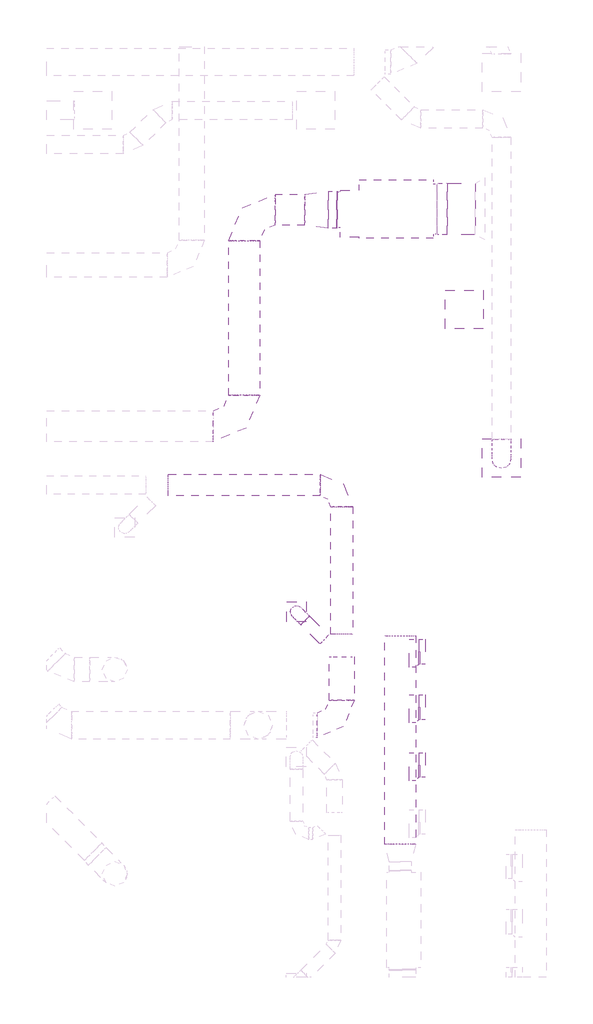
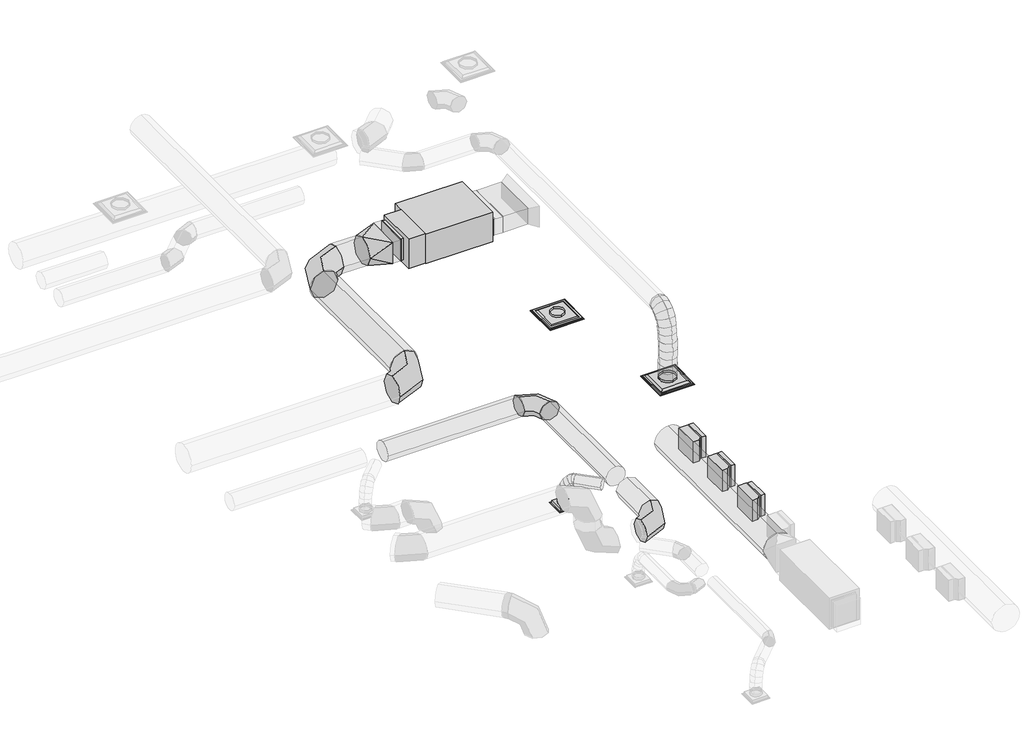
# One storey, part 30 of 33: 15 duct segments, 9 duct fittings, 6 air terminals, 1 proxy.
"""IFC4 building model written with IfcOpenShell, lengths in millimetres."""

from ifc_helpers import new_model, si_unit, point, frame, frame_2d, origin, place, context, project, spatial, polyline, circle_curve, ellipse_curve, trimmed, segment, composite_curve, outline, extrude, faceted_brep, transform, mapped, element, save
from ifc_brep_helpers import plane_surface, cylinder_surface, advanced_brep
from components import air_terminal_a17ada07, air_terminal_0721d01d, dsr_dsr_a080a00d, par_aa_10_24x24_32668ffe, fc_2_fc_2_e5f3d2ac, rectangular_tap_beveled_standard_9f1364f6, rectangular_transition_angle_45_degree_bb6b805d, rectangular_to_round_transition_angle_15_degree_eb7a6f47, round_elbow_1_d_8aca8b6e, round_elbow_1_d_a89bf638, round_elbow_1_d_1de4db61

model = new_model("IFC4")

# Units and contexts
model_context = context("Model", 3, world=origin())
ifc_project = project(units=[si_unit("LENGTHUNIT", "METRE", prefix="MILLI")], contexts=[model_context])

# Site, building, storey
site = spatial("IfcSite", under=ifc_project)
building = spatial("IfcBuilding", under=site)
storey = spatial("IfcBuildingStorey", under=building, Name="T.O. SLAB - 1ST", Elevation=-25.4)

# Air terminals
placement = place(None, origin())
air_terminal_shape = air_terminal_a17ada07(model_context)
element("IfcAirTerminal", 1, ObjectType="Titus-Round_Neck_Supply_Diffuser-PCS_Surface_Mount : PCS AA-12_24x24", at=placement, inside=storey, context=model_context, shape_type="MappedRepresentation", body=[
    mapped(air_terminal_shape, transform((36315.6541966, 21532.0330034, 2717.8), x_axis=(0.0, 1.0, 0.0), y_axis=(1.0, 0.0, 0.0), z_axis=(0.0, 0.0, -1.0))),
])
air_terminal_2_shape = air_terminal_0721d01d(model_context)
element("IfcAirTerminal", 2, ObjectType="Titus-Round_Neck_Supply_Diffuser-PCS_Surface_Mount : PCS AA-08_12x12", at=placement, inside=storey, context=model_context, shape_type="MappedRepresentation", body=[
    mapped(air_terminal_2_shape, transform((32953.3010221, 19010.4211025, 3022.6), x_axis=(1.0, 0.0, 0.0), y_axis=(0.0, -1.0, 0.0), z_axis=(0.0, 0.0, -1.0))),
])
dsr_dsr_shape = dsr_dsr_a080a00d(model_context)
element("IfcAirTerminal", 3, ObjectType="DSR : DSR", at=placement, inside=storey, context=model_context, shape_type="MappedRepresentation", body=[
    mapped(dsr_dsr_shape, transform((35061.381406, 18352.9340972, 3930.65), x_axis=(0.0, 1.0, 0.0), y_axis=(0.0, 0.0, 1.0), z_axis=(1.0, 0.0, 0.0))),
])
element("IfcAirTerminal", 4, ObjectType="DSR : DSR", at=placement, inside=storey, context=model_context, shape_type="MappedRepresentation", body=[
    mapped(dsr_dsr_shape, transform((35061.381406, 17443.908371, 3930.65), x_axis=(0.0, 1.0, 0.0), y_axis=(0.0, 0.0, 1.0), z_axis=(1.0, 0.0, 0.0))),
])
element("IfcAirTerminal", 5, ObjectType="DSR : DSR", at=placement, inside=storey, context=model_context, shape_type="MappedRepresentation", body=[
    mapped(dsr_dsr_shape, transform((35061.381406, 16495.3598945, 3930.65), x_axis=(0.0, 1.0, 0.0), y_axis=(0.0, 0.0, 1.0), z_axis=(1.0, 0.0, 0.0))),
])
par_aa_10_24x24_shape = par_aa_10_24x24_32668ffe(model_context)
element("IfcAirTerminal", 6, ObjectType="Titus-Round_Neck_Return_Diffuser-PAR_Surface_Mount : PAR AA-10_24x24", at=placement, inside=storey, context=model_context, shape_type="MappedRepresentation", body=[
    mapped(par_aa_10_24x24_shape, transform((35706.05, 23970.4366937, 2717.8), x_axis=(0.0, 1.0, 0.0), y_axis=(1.0, 0.0, 0.0), z_axis=(0.0, 0.0, -1.0))),
])

# Proxy
fc_2_fc_2_shape = fc_2_fc_2_e5f3d2ac(model_context)
element("IfcBuildingElementProxy", 7, Name="FC-2 : FC-2", ObjectType="FC-2 : FC-2", at=placement, inside=storey, context=model_context, shape_type="MappedRepresentation", body=[
    mapped(fc_2_fc_2_shape, transform((34589.6309503, 25619.3480666, 3598.849829), x_axis=(0.0, 1.0, 0.0), y_axis=(-1.0, 0.0, 0.0), z_axis=(0.0, 0.0, 1.0))),
])

# Duct fittings
rectangular_tap_beveled_standard_shape = rectangular_tap_beveled_standard_9f1364f6(model_context)
element("IfcDuctFitting", 8, ObjectType="Rectangular Tap - Beveled : Standard", at=placement, inside=storey, context=model_context, shape_type="MappedRepresentation", body=[
    mapped(rectangular_tap_beveled_standard_shape, transform((34908.981406, 18352.9340972, 3930.65), x_axis=(1.0, 0.0, 0.0), y_axis=(0.0, -1.0, 0.0), z_axis=(0.0, 0.0, -1.0))),
])
element("IfcDuctFitting", 9, ObjectType="Rectangular Tap - Beveled : Standard", at=placement, inside=storey, context=model_context, shape_type="MappedRepresentation", body=[
    mapped(rectangular_tap_beveled_standard_shape, transform((34908.981406, 17443.908371, 3930.65), x_axis=(1.0, 0.0, 0.0), y_axis=(0.0, -1.0, 0.0), z_axis=(0.0, 0.0, -1.0))),
])
element("IfcDuctFitting", 10, ObjectType="Rectangular Tap - Beveled : Standard", at=placement, inside=storey, context=model_context, shape_type="MappedRepresentation", body=[
    mapped(rectangular_tap_beveled_standard_shape, transform((34908.981406, 16495.3598945, 3930.65), x_axis=(1.0, 0.0, 0.0), y_axis=(0.0, -1.0, 0.0), z_axis=(0.0, 0.0, -1.0))),
])
rectangular_transition_angle_45_degree_shape = rectangular_transition_angle_45_degree_bb6b805d(model_context)
element("IfcDuctFitting", 11, ObjectType="Rectangular Transition - Angle : 45 Degree", at=placement, inside=storey, context=model_context, shape_type="MappedRepresentation", body=[
    mapped(rectangular_transition_angle_45_degree_shape, transform((33623.6372003, 25605.0605666, 3886.187329), x_axis=(-1.0, 0.0, 0.0), y_axis=(0.0, -1.0, 0.0), z_axis=(0.0, 0.0, 1.0))),
])
rectangular_to_round_transition_angle_15_degree_shape = rectangular_to_round_transition_angle_15_degree_eb7a6f47(model_context)
element("IfcDuctFitting", 12, ObjectType="Rectangular to Round Transition - Angle : 15 Degree", at=placement, inside=storey, context=model_context, shape_type="MappedRepresentation", body=[
    mapped(rectangular_to_round_transition_angle_15_degree_shape, transform((33471.2357178, 25605.0605666, 3886.193462), x_axis=(-0.9999999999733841, 0.0, 7.296021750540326e-06), y_axis=(0.0, -1.0, 0.0), z_axis=(7.296021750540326e-06, 0.0, 0.9999999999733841))),
])
round_elbow_1_d_shape = round_elbow_1_d_8aca8b6e(model_context)
element("IfcDuctFitting", 13, ObjectType="Round Elbow : 1 D", at=placement, inside=storey, context=model_context, shape_type="MappedRepresentation", body=[
    mapped(round_elbow_1_d_shape, transform((33696.4349991, 17149.3079464, 3530.6), x_axis=(1.0, 0.0, 0.0), y_axis=(0.0, 1.0, 0.0), z_axis=(0.0, 0.0, 1.0))),
])
round_elbow_1_d_2_shape = round_elbow_1_d_a89bf638(model_context)
element("IfcDuctFitting", 14, ObjectType="Round Elbow : 1 D", at=placement, inside=storey, context=model_context, shape_type="MappedRepresentation", body=[
    mapped(round_elbow_1_d_2_shape, transform((33696.4349991, 21087.5678553, 3530.6), x_axis=(0.0, 1.0, 0.0), y_axis=(-1.0, 0.0, 0.0), z_axis=(0.0, 0.0, 1.0))),
])
round_elbow_1_d_3_shape = round_elbow_1_d_1de4db61(model_context)
element("IfcDuctFitting", 15, ObjectType="Round Elbow : 1 D", at=placement, inside=storey, context=model_context, shape_type="MappedRepresentation", body=[
    mapped(round_elbow_1_d_3_shape, transform((32094.8584341, 25605.0605666, 3886.2021598), x_axis=(-0.9999999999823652, 0.0, 5.9388217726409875e-06), y_axis=(0.0, -1.0, 0.0), z_axis=(5.9388217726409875e-06, 0.0, 0.9999999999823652))),
])
element("IfcDuctFitting", 16, ObjectType="Round Elbow : 1 D", at=placement, inside=storey, context=model_context, shape_type="MappedRepresentation", body=[
    mapped(round_elbow_1_d_3_shape, transform((32094.8584341, 22053.924362, 3886.192755), x_axis=(1.0, 0.0, 0.0), y_axis=(0.0, 0.9999999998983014, 1.4261742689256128e-05), z_axis=(0.0, -1.4261742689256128e-05, 0.9999999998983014))),
])

# Duct segments
element("IfcDuctSegment", 17, ObjectType="Flex - Rectangular", at=placement, inside=storey, context=model_context, shape_type="SweptSolid", body=[
    extrude(outline(polyline([(3967.1749971, 35266.1549564), (3662.3749971, 35266.1549564), (3662.3749971, 35277.4369122), (3656.8187471, 35408.931307), (3656.8187471, 35426.65), (3961.6187471, 35426.65), (3961.6187471, 35415.3680442), (3967.1749971, 35283.8736494), (3967.1749971, 35266.1549564)])), frame((0.0, 25198.6605666, 0.0), z_axis=(0.0, 1.0, 0.0), x_axis=(0.0, 0.0, 1.0)), (0.0, 0.0, 1.0), 838.2),
])
element("IfcDuctSegment", 18, ObjectType="Flex - Rectangular", at=placement, inside=storey, context=model_context, shape_type="Brep", body=[
    faceted_brep([(33615.980312, 25909.8605666, 4089.3873288), (33615.980312, 25300.2605666, 4089.3873288), (33615.9638325, 25300.2605666, 3682.9873292), (33615.9638325, 25909.8605666, 3682.9873292), (33471.2446988, 25909.8605666, 4089.3931978), (33471.2446988, 25300.2605666, 4089.3931978), (33471.2267368, 25300.2605666, 3682.9934622), (33471.2267368, 25909.8605666, 3682.9931982)], [[[0, 1, 2, 3]], [[1, 0, 4, 5]], [[2, 1, 5, 6]], [[3, 2, 6, 7]], [[4, 0, 3, 7]], [[4, 7, 6, 5]]]),
])
element("IfcDuctSegment", 19, ObjectType="Flex - Round", at=placement, inside=storey, context=model_context, shape_type="AdvancedBrep", body=[
    advanced_brep(
    [(33022.9125474, 18794.8952456, 3530.6), (33094.7545964, 18866.7372945, 3429.0), (33166.5966454, 18938.5793435, 3530.6), (33094.7545964, 18866.7372945, 3632.2), (33002.6244702, 18815.1833228, 3530.6), (33091.6522167, 18869.8396743, 3429.0), (33146.5087494, 18958.6672394, 3530.6), (33057.481003, 18904.010888, 3632.2), (32881.1319114, 18938.907611, 3117.85), (32881.7875306, 19082.5902132, 3117.85), (33025.4701328, 19081.9345939, 3117.85), (33024.8145135, 18938.2519918, 3117.85), (32974.596927, 18843.3769128, 3510.5574701), (33089.5035497, 18872.0010709, 3427.4634856), (33118.7662504, 18986.5740966, 3510.7613055), (33003.8596278, 18957.9499385, 3593.85529), (32937.8007564, 18880.5869272, 3457.4083294), (33068.9855318, 18892.7498533, 3397.8268414), (33082.1190278, 19023.6334878, 3457.8273084), (32950.9342524, 19011.4705617, 3517.4087963), (32911.2408566, 18907.6842462, 3381.3638976), (33050.4629403, 18911.6472352, 3344.7942639), (33055.6096372, 19050.6792755, 3381.927491), (32916.3875535, 19046.7162865, 3418.4971248), (32893.7305289, 18925.7314352, 3292.6393506), (33035.9604111, 18926.5944075, 3271.3101831), (33038.0962577, 19068.7296099, 3293.1874805), (32895.8663755, 19067.8666375, 3314.5166479), (32884.0862104, 18935.7883747, 3201.4024904), (33027.4837606, 18935.4337217, 3191.1196571), (33028.4339328, 19078.8053262, 3201.7802769), (32885.0363825, 19079.1599792, 3212.0631102), (32881.1319114, 18938.907611, 3123.0011083), (33024.8145135, 18938.2519918, 3120.2830014), (33025.4701328, 19081.9345939, 3123.1267561), (32881.7875306, 19082.5902132, 3125.844863)],
    [
        (0, 1, circle_curve(frame((33094.7545964, 18866.7372945, 3530.6), z_axis=(0.7071067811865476, -0.7071067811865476, 0.0), x_axis=(-0.7071067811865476, -0.7071067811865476, 0.0)), 101.6)),
        (1, 2, circle_curve(frame((33094.7545964, 18866.7372945, 3530.6), z_axis=(0.7071067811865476, -0.7071067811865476, 0.0), x_axis=(-0.7071067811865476, -0.7071067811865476, 0.0)), 101.6)),
        (2, 3, circle_curve(frame((33094.7545964, 18866.7372945, 3530.6), z_axis=(0.7071067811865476, -0.7071067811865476, 0.0), x_axis=(-0.7071067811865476, -0.7071067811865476, 0.0)), 101.6)),
        (3, 0, circle_curve(frame((33094.7545964, 18866.7372945, 3530.6), z_axis=(0.7071067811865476, -0.7071067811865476, 0.0), x_axis=(-0.7071067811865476, -0.7071067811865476, 0.0)), 101.6)),
        (0, 4),
        (4, 5, ellipse_curve(frame((33074.5666098, 18886.9252811, 3530.6), z_axis=(0.686961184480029, -0.6888780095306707, 0.23136857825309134), x_axis=(0.16763498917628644, -0.15957520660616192, -0.9728485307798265)), 104.4337874, 101.6)),
        (5, 1),
        (5, 6, ellipse_curve(frame((33074.5666098, 18886.9252811, 3530.6), z_axis=(0.686961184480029, -0.6888780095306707, 0.23136857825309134), x_axis=(0.16763498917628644, -0.15957520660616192, -0.9728485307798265)), 104.4337874, 101.6)),
        (6, 2),
        (6, 7, ellipse_curve(frame((33074.5666098, 18886.9252811, 3530.6), z_axis=(0.686961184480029, -0.6888780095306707, 0.23136857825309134), x_axis=(0.16763498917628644, -0.15957520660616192, -0.9728485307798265)), 104.4337874, 101.6)),
        (7, 3),
        (7, 4, ellipse_curve(frame((33074.5666098, 18886.9252811, 3530.6), z_axis=(0.686961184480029, -0.6888780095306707, 0.23136857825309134), x_axis=(0.16763498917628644, -0.15957520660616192, -0.9728485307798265)), 104.4337874, 101.6)),
        (8, 9, circle_curve(frame((32953.3010221, 19010.4211025, 3117.85), z_axis=(0.0, 0.0, -1.0), x_axis=(-0.7103258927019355, -0.7038729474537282, 0.0)), 101.6)),
        (9, 10, circle_curve(frame((32953.3010221, 19010.4211025, 3117.85), z_axis=(0.0, 0.0, -1.0), x_axis=(-0.7103258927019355, -0.7038729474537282, 0.0)), 101.6)),
        (10, 11, circle_curve(frame((32953.3010221, 19010.4211025, 3117.85), z_axis=(0.0, 0.0, -1.0), x_axis=(-0.7103258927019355, -0.7038729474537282, 0.0)), 101.6)),
        (11, 8, circle_curve(frame((32953.3010221, 19010.4211025, 3117.85), z_axis=(0.0, 0.0, -1.0), x_axis=(-0.7103258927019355, -0.7038729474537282, 0.0)), 101.6)),
        (4, 12),
        (12, 13, ellipse_curve(frame((33046.6815887, 18914.9755047, 3510.6593878), z_axis=(0.56898074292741, -0.5736821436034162, 0.589194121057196), x_axis=(0.4194299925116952, -0.41382943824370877, -0.8079750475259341)), 102.9664394, 101.6)),
        (13, 5),
        (13, 14, ellipse_curve(frame((33046.6815887, 18914.9755047, 3510.6593878), z_axis=(0.56898074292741, -0.5736821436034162, 0.589194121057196), x_axis=(0.4194299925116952, -0.41382943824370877, -0.8079750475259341)), 102.9664394, 101.6)),
        (14, 6),
        (14, 15, ellipse_curve(frame((33046.6815887, 18914.9755047, 3510.6593878), z_axis=(0.56898074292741, -0.5736821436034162, 0.589194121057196), x_axis=(0.4194299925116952, -0.41382943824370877, -0.8079750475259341)), 102.9664394, 101.6)),
        (15, 7),
        (15, 12, ellipse_curve(frame((33046.6815887, 18914.9755047, 3510.6593878), z_axis=(0.56898074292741, -0.5736821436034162, 0.589194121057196), x_axis=(0.4194299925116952, -0.41382943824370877, -0.8079750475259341)), 102.9664394, 101.6)),
        (12, 16),
        (16, 17, ellipse_curve(frame((33009.9598921, 18952.1102075, 3457.6178189), z_axis=(0.40796939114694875, -0.41397975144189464, 0.8137455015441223), x_axis=(0.576648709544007, -0.5741759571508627, -0.5812041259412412)), 102.8719746, 101.6)),
        (17, 13),
        (17, 18, ellipse_curve(frame((33009.9598921, 18952.1102075, 3457.6178189), z_axis=(0.40796939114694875, -0.41397975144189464, 0.8137455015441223), x_axis=(0.576648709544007, -0.5741759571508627, -0.5812041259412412)), 102.8719746, 101.6)),
        (18, 14),
        (18, 19, ellipse_curve(frame((33009.9598921, 18952.1102075, 3457.6178189), z_axis=(0.40796939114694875, -0.41397975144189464, 0.8137455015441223), x_axis=(0.576648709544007, -0.5741759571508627, -0.5812041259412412)), 102.8719746, 101.6)),
        (19, 15),
        (19, 16, ellipse_curve(frame((33009.9598921, 18952.1102075, 3457.6178189), z_axis=(0.40796939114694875, -0.41397975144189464, 0.8137455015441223), x_axis=(0.576648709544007, -0.5741759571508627, -0.5812041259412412)), 102.8719746, 101.6)),
        (16, 20),
        (20, 21, ellipse_curve(frame((32983.4252469, 18979.1817608, 3381.6456943), z_axis=(0.2522989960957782, -0.25839817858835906, 0.9325103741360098), x_axis=(0.6580402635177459, -0.6607342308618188, -0.36112779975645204)), 102.044072, 101.6)),
        (21, 17),
        (21, 22, ellipse_curve(frame((32983.4252469, 18979.1817608, 3381.6456943), z_axis=(0.2522989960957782, -0.25839817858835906, 0.9325103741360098), x_axis=(0.6580402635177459, -0.6607342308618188, -0.36112779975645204)), 102.044072, 101.6)),
        (22, 18),
        (22, 23, ellipse_curve(frame((32983.4252469, 18979.1817608, 3381.6456943), z_axis=(0.2522989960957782, -0.25839817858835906, 0.9325103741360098), x_axis=(0.6580402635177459, -0.6607342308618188, -0.36112779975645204)), 102.044072, 101.6)),
        (23, 19),
        (23, 20, ellipse_curve(frame((32983.4252469, 18979.1817608, 3381.6456943), z_axis=(0.2522989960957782, -0.25839817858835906, 0.9325103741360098), x_axis=(0.6580402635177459, -0.6607342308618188, -0.36112779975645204)), 102.044072, 101.6)),
        (20, 24),
        (24, 25, ellipse_curve(frame((32965.9133933, 18997.2305225, 3292.9134155), z_axis=(0.14747235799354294, -0.15262850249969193, 0.9772187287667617), x_axis=(0.6855547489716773, -0.6964013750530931, -0.21222584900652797)), 101.7975717, 101.6)),
        (25, 21),
        (25, 26, ellipse_curve(frame((32965.9133933, 18997.2305225, 3292.9134155), z_axis=(0.14747235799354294, -0.15262850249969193, 0.9772187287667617), x_axis=(0.6855547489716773, -0.6964013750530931, -0.21222584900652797)), 101.7975717, 101.6)),
        (26, 22),
        (26, 27, ellipse_curve(frame((32965.9133933, 18997.2305225, 3292.9134155), z_axis=(0.14747235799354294, -0.15262850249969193, 0.9772187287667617), x_axis=(0.6855547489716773, -0.6964013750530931, -0.21222584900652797)), 101.7975717, 101.6)),
        (27, 23),
        (27, 24, ellipse_curve(frame((32965.9133933, 18997.2305225, 3292.9134155), z_axis=(0.14747235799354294, -0.15262850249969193, 0.9772187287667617), x_axis=(0.6855547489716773, -0.6964013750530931, -0.21222584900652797)), 101.7975717, 101.6)),
        (24, 28),
        (28, 29, ellipse_curve(frame((32956.2600716, 19007.2968505, 3201.5913836), z_axis=(0.07114335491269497, -0.07443285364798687, 0.9946850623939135), x_axis=(0.6909963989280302, -0.7154876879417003, -0.10296283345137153)), 101.7191439, 101.6)),
        (29, 25),
        (29, 30, ellipse_curve(frame((32956.2600716, 19007.2968505, 3201.5913836), z_axis=(0.07114335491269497, -0.07443285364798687, 0.9946850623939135), x_axis=(0.6909963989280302, -0.7154876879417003, -0.10296283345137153)), 101.7191439, 101.6)),
        (30, 26),
        (30, 31, ellipse_curve(frame((32956.2600716, 19007.2968505, 3201.5913836), z_axis=(0.07114335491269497, -0.07443285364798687, 0.9946850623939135), x_axis=(0.6909963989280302, -0.7154876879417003, -0.10296283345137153)), 101.7191439, 101.6)),
        (31, 27),
        (31, 28, ellipse_curve(frame((32956.2600716, 19007.2968505, 3201.5913836), z_axis=(0.07114335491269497, -0.07443285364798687, 0.9946850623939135), x_axis=(0.6909963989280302, -0.7154876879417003, -0.10296283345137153)), 101.7191439, 101.6)),
        (28, 32),
        (32, 33, ellipse_curve(frame((32953.3010221, 19010.4211025, 3123.0639322), z_axis=(0.018819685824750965, -0.019870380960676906, 0.9996254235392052), x_axis=(0.6873929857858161, -0.7257698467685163, -0.02736809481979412)), 101.6380712, 101.6)),
        (33, 29),
        (33, 34, ellipse_curve(frame((32953.3010221, 19010.4211025, 3123.0639322), z_axis=(0.018819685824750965, -0.019870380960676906, 0.9996254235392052), x_axis=(0.6873929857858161, -0.7257698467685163, -0.02736809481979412)), 101.6380712, 101.6)),
        (34, 30),
        (34, 35, ellipse_curve(frame((32953.3010221, 19010.4211025, 3123.0639322), z_axis=(0.018819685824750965, -0.019870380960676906, 0.9996254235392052), x_axis=(0.6873929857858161, -0.7257698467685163, -0.02736809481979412)), 101.6380712, 101.6)),
        (35, 31),
        (35, 32, ellipse_curve(frame((32953.3010221, 19010.4211025, 3123.0639322), z_axis=(0.018819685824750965, -0.019870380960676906, 0.9996254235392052), x_axis=(0.6873929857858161, -0.7257698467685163, -0.02736809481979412)), 101.6380712, 101.6)),
        (32, 8),
        (11, 33),
        (10, 34),
        (9, 35),
    ],
    [
        plane_surface(frame((33094.7545964, 18866.7372945, 3632.2), z_axis=(0.707106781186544, -0.7071067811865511, 0.0), x_axis=(0.7071067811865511, 0.707106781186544, 0.0))),
        cylinder_surface(frame((33094.7545964, 18866.7372945, 3530.6), z_axis=(0.7071067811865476, -0.7071067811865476, 0.0), x_axis=(-0.7071067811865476, -0.7071067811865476, 0.0)), 101.6),
        plane_surface(frame((32953.3010221, 18908.8211025, 3117.85), z_axis=(0.0, 0.0, -1.0), x_axis=(-1.0, 0.0, 0.0))),
        cylinder_surface(frame((33074.5666098, 18886.9252811, 3530.6), z_axis=(0.6295345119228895, -0.6332641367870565, 0.4501808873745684), x_axis=(-0.7089689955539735, -0.7052393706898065, -0.0006271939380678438)), 101.6),
        cylinder_surface(frame((33046.6815887, 18914.9755047, 3510.6593878), z_axis=(0.4933253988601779, -0.49887379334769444, 0.7125692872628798), x_axis=(-0.7099066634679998, -0.7042939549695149, -0.0015981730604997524)), 101.6),
        cylinder_surface(frame((33009.9598921, 18952.1102075, 3457.6178189), z_axis=(0.3125245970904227, -0.31884829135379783, 0.8947983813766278), x_axis=(-0.7104311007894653, -0.7037617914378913, -0.002644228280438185)), 101.6),
        cylinder_surface(frame((32983.4252469, 18979.1817608, 3381.6456943), z_axis=(0.18987750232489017, -0.195699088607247, 0.9621062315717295), x_axis=(-0.7105037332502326, -0.70368740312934, -0.002912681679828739)), 101.6),
        cylinder_surface(frame((32965.9133933, 18997.2305225, 3292.9134155), z_axis=(0.10449477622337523, -0.10896546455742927, 0.9885379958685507), x_axis=(-0.7104378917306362, -0.7037555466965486, -0.0024763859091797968)), 101.6),
        cylinder_surface(frame((32956.2600716, 19007.2968505, 3201.5913836), z_axis=(0.03762527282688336, -0.03972587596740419, 0.9985019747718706), x_axis=(-0.7103491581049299, -0.7038483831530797, -0.001235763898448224)), 101.6),
        cylinder_surface(frame((32953.3010221, 19010.4211025, 3123.0639322), z_axis=(0.0, 0.0, 1.0000000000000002), x_axis=(-0.7103258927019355, -0.7038729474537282, 0.0)), 101.6),
    ],
    [
        (0, [[1, 2, 3, 4]]),
        (1, [[-1, 5, 6, 7]]),
        (1, [[-2, -7, 8, 9]]),
        (1, [[-3, -9, 10, 11]]),
        (1, [[-4, -11, 12, -5]]),
        (2, [[13, 14, 15, 16]]),
        (3, [[-6, 17, 18, 19]]),
        (3, [[-8, -19, 20, 21]]),
        (3, [[-10, -21, 22, 23]]),
        (3, [[-12, -23, 24, -17]]),
        (4, [[-18, 25, 26, 27]]),
        (4, [[-20, -27, 28, 29]]),
        (4, [[-22, -29, 30, 31]]),
        (4, [[-24, -31, 32, -25]]),
        (5, [[-26, 33, 34, 35]]),
        (5, [[-28, -35, 36, 37]]),
        (5, [[-30, -37, 38, 39]]),
        (5, [[-32, -39, 40, -33]]),
        (6, [[-34, 41, 42, 43]]),
        (6, [[-36, -43, 44, 45]]),
        (6, [[-38, -45, 46, 47]]),
        (6, [[-40, -47, 48, -41]]),
        (7, [[-42, 49, 50, 51]]),
        (7, [[-44, -51, 52, 53]]),
        (7, [[-46, -53, 54, 55]]),
        (7, [[-48, -55, 56, -49]]),
        (8, [[-50, 57, 58, 59]]),
        (8, [[-52, -59, 60, 61]]),
        (8, [[-54, -61, 62, 63]]),
        (8, [[-56, -63, 64, -57]]),
        (9, [[-58, 65, -16, 66]]),
        (9, [[-60, -66, -15, 67]]),
        (9, [[-62, -67, -14, 68]]),
        (9, [[-64, -68, -13, -65]]),
    ],
),
])
element("IfcDuctSegment", 20, ObjectType="Flex - Round", at=placement, inside=storey, context=model_context, shape_type="AdvancedBrep", body=[
    advanced_brep(
    [(36468.0541966, 21836.8330034, 4038.6), (36315.6541966, 21836.8330034, 3886.2), (36163.2541966, 21836.8330034, 4038.6), (36315.6541966, 21836.8330034, 4191.0), (36468.0541966, 21808.8194506, 4038.6), (36315.6541966, 21828.1176603, 3886.2), (36163.2541966, 21808.8194506, 4038.6), (36315.6541966, 21789.5212409, 4191.0), (36468.0541966, 21532.0330034, 2806.7), (36315.6541966, 21379.6330034, 2806.7), (36163.2541966, 21532.0330034, 2806.7), (36315.6541966, 21684.4330034, 2806.7), (36468.0541966, 21734.38859, 4019.4426532), (36315.6541966, 21798.4059759, 3878.5526742), (36163.2541966, 21734.38859, 4019.4426532), (36315.6541966, 21670.3712041, 4160.3326322), (36468.0541966, 21655.8093843, 3965.5611549), (36315.6541966, 21765.099732, 3855.7146943), (36163.2541966, 21655.8093843, 3965.5611549), (36315.6541966, 21546.5190365, 4075.4076155), (36468.0541966, 21598.1226718, 3882.341318), (36315.6541966, 21734.3194993, 3811.3106046), (36163.2541966, 21598.1226718, 3882.341318), (36315.6541966, 21461.9258444, 3953.3720314), (36468.0541966, 21558.3557383, 3775.1689556), (36315.6541966, 21705.4983959, 3733.6373858), (36163.2541966, 21558.3557383, 3775.1689556), (36315.6541966, 21411.2130806, 3816.7005255), (36468.0541966, 21533.5358692, 3649.4298808), (36315.6541966, 21684.567442, 3627.5998087), (36163.2541966, 21533.5358692, 3649.4298808), (36315.6541966, 21382.5042964, 3671.259953), (36468.0541966, 21520.6903502, 3510.5099066), (36315.6541966, 21672.9062835, 3501.4882956), (36163.2541966, 21520.6903502, 3510.5099066), (36315.6541966, 21368.4744169, 3519.5315175), (36468.0541966, 21516.846467, 3363.7948459), (36315.6541966, 21669.2757156, 3362.9151481), (36163.2541966, 21516.846467, 3363.7948459), (36315.6541966, 21364.4172184, 3364.6745438), (36468.0541966, 21519.0315051, 3214.6705119), (36315.6541966, 21671.3914841, 3218.5183187), (36163.2541966, 21519.0315051, 3214.6705119), (36315.6541966, 21366.6715261, 3210.8227051), (36468.0541966, 21524.2727501, 3068.5227176), (36315.6541966, 21676.5672531, 3074.1962688), (36163.2541966, 21524.2727501, 3068.5227176), (36315.6541966, 21371.9782471, 3062.8491663), (36468.0541966, 21529.5974877, 2930.7372759), (36315.6541966, 21681.9382767, 2935.2131076), (36163.2541966, 21529.5974877, 2930.7372759), (36315.6541966, 21377.2566986, 2926.2614443), (36468.0541966, 21532.0330034, 2809.6918511), (36315.6541966, 21684.4330034, 2811.2248915), (36163.2541966, 21532.0330034, 2809.6918511), (36315.6541966, 21379.6330034, 2808.1588108)],
    [
        (0, 1, circle_curve(frame((36315.6541966, 21836.8330034, 4038.6), z_axis=(0.0, 1.0, 0.0), x_axis=(1.0, 0.0, 0.0)), 152.4)),
        (1, 2, circle_curve(frame((36315.6541966, 21836.8330034, 4038.6), z_axis=(0.0, 1.0, 0.0), x_axis=(1.0, 0.0, 0.0)), 152.4)),
        (2, 3, circle_curve(frame((36315.6541966, 21836.8330034, 4038.6), z_axis=(0.0, 1.0, 0.0), x_axis=(1.0, 0.0, 0.0)), 152.4)),
        (3, 0, circle_curve(frame((36315.6541966, 21836.8330034, 4038.6), z_axis=(0.0, 1.0, 0.0), x_axis=(1.0, 0.0, 0.0)), 152.4)),
        (0, 4),
        (4, 5, ellipse_curve(frame((36315.6541966, 21808.8194506, 4038.6), z_axis=(0.0, 0.9920777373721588, 0.12562548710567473), x_axis=(0.0, 0.1256254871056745, -0.9920777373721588)), 153.6169942, 152.4)),
        (5, 1),
        (5, 6, ellipse_curve(frame((36315.6541966, 21808.8194506, 4038.6), z_axis=(0.0, 0.9920777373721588, 0.12562548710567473), x_axis=(0.0, 0.1256254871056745, -0.9920777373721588)), 153.6169942, 152.4)),
        (6, 2),
        (6, 7, ellipse_curve(frame((36315.6541966, 21808.8194506, 4038.6), z_axis=(0.0, 0.9920777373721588, 0.12562548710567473), x_axis=(0.0, 0.1256254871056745, -0.9920777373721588)), 153.6169942, 152.4)),
        (7, 3),
        (7, 4, ellipse_curve(frame((36315.6541966, 21808.8194506, 4038.6), z_axis=(0.0, 0.9920777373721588, 0.12562548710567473), x_axis=(0.0, 0.1256254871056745, -0.9920777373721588)), 153.6169942, 152.4)),
        (8, 9, circle_curve(frame((36315.6541966, 21532.0330034, 2806.7), z_axis=(0.0, 0.0, -1.0), x_axis=(1.0, 0.0, 0.0)), 152.4)),
        (9, 10, circle_curve(frame((36315.6541966, 21532.0330034, 2806.7), z_axis=(0.0, 0.0, -1.0), x_axis=(1.0, 0.0, 0.0)), 152.4)),
        (10, 11, circle_curve(frame((36315.6541966, 21532.0330034, 2806.7), z_axis=(0.0, 0.0, -1.0), x_axis=(1.0, 0.0, 0.0)), 152.4)),
        (11, 8, circle_curve(frame((36315.6541966, 21532.0330034, 2806.7), z_axis=(0.0, 0.0, -1.0), x_axis=(1.0, 0.0, 0.0)), 152.4)),
        (4, 12),
        (12, 13, ellipse_curve(frame((36315.6541966, 21734.38859, 4019.4426532), z_axis=(0.0, 0.9104237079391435, 0.4136770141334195), x_axis=(0.0, 0.4136770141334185, -0.9104237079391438)), 154.7520982, 152.4)),
        (13, 5),
        (13, 14, ellipse_curve(frame((36315.6541966, 21734.38859, 4019.4426532), z_axis=(0.0, 0.9104237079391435, 0.4136770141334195), x_axis=(0.0, 0.4136770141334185, -0.9104237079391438)), 154.7520982, 152.4)),
        (14, 6),
        (14, 15, ellipse_curve(frame((36315.6541966, 21734.38859, 4019.4426532), z_axis=(0.0, 0.9104237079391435, 0.4136770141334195), x_axis=(0.0, 0.4136770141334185, -0.9104237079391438)), 154.7520982, 152.4)),
        (15, 7),
        (15, 12, ellipse_curve(frame((36315.6541966, 21734.38859, 4019.4426532), z_axis=(0.0, 0.9104237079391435, 0.4136770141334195), x_axis=(0.0, 0.4136770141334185, -0.9104237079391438)), 154.7520982, 152.4)),
        (12, 16),
        (16, 17, ellipse_curve(frame((36315.6541966, 21655.8093843, 3965.5611549), z_axis=(0.0, 0.7088989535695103, 0.7053100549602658), x_axis=(0.0, 0.7053100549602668, -0.7088989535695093)), 154.9536222, 152.4)),
        (17, 13),
        (17, 18, ellipse_curve(frame((36315.6541966, 21655.8093843, 3965.5611549), z_axis=(0.0, 0.7088989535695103, 0.7053100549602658), x_axis=(0.0, 0.7053100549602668, -0.7088989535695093)), 154.9536222, 152.4)),
        (18, 14),
        (18, 19, ellipse_curve(frame((36315.6541966, 21655.8093843, 3965.5611549), z_axis=(0.0, 0.7088989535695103, 0.7053100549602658), x_axis=(0.0, 0.7053100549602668, -0.7088989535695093)), 154.9536222, 152.4)),
        (19, 15),
        (19, 16, ellipse_curve(frame((36315.6541966, 21655.8093843, 3965.5611549), z_axis=(0.0, 0.7088989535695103, 0.7053100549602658), x_axis=(0.0, 0.7053100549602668, -0.7088989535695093)), 154.9536222, 152.4)),
        (16, 20),
        (20, 21, ellipse_curve(frame((36315.6541966, 21598.1226718, 3882.341318), z_axis=(0.0, 0.4624201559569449, 0.8866609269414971), x_axis=(0.0, 0.8866609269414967, -0.4624201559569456)), 153.6064388, 152.4)),
        (21, 17),
        (21, 22, ellipse_curve(frame((36315.6541966, 21598.1226718, 3882.341318), z_axis=(0.0, 0.4624201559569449, 0.8866609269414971), x_axis=(0.0, 0.8866609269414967, -0.4624201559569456)), 153.6064388, 152.4)),
        (22, 18),
        (22, 23, ellipse_curve(frame((36315.6541966, 21598.1226718, 3882.341318), z_axis=(0.0, 0.4624201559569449, 0.8866609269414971), x_axis=(0.0, 0.8866609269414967, -0.4624201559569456)), 153.6064388, 152.4)),
        (23, 19),
        (23, 20, ellipse_curve(frame((36315.6541966, 21598.1226718, 3882.341318), z_axis=(0.0, 0.4624201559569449, 0.8866609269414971), x_axis=(0.0, 0.8866609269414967, -0.4624201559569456)), 153.6064388, 152.4)),
        (20, 24),
        (24, 25, ellipse_curve(frame((36315.6541966, 21558.3557383, 3775.1689556), z_axis=(0.0, 0.2716406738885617, 0.9623987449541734), x_axis=(0.0, 0.9623987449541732, -0.2716406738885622)), 152.8915727, 152.4)),
        (25, 21),
        (25, 26, ellipse_curve(frame((36315.6541966, 21558.3557383, 3775.1689556), z_axis=(0.0, 0.2716406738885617, 0.9623987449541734), x_axis=(0.0, 0.9623987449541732, -0.2716406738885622)), 152.8915727, 152.4)),
        (26, 22),
        (26, 27, ellipse_curve(frame((36315.6541966, 21558.3557383, 3775.1689556), z_axis=(0.0, 0.2716406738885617, 0.9623987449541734), x_axis=(0.0, 0.9623987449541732, -0.2716406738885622)), 152.8915727, 152.4)),
        (27, 23),
        (27, 24, ellipse_curve(frame((36315.6541966, 21558.3557383, 3775.1689556), z_axis=(0.0, 0.2716406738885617, 0.9623987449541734), x_axis=(0.0, 0.9623987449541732, -0.2716406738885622)), 152.8915727, 152.4)),
        (24, 28),
        (28, 29, ellipse_curve(frame((36315.6541966, 21533.5358692, 3649.4298808), z_axis=(0.0, 0.14305320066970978, 0.9897150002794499), x_axis=(0.0, 0.9897150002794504, -0.14305320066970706)), 152.6010748, 152.4)),
        (29, 25),
        (29, 30, ellipse_curve(frame((36315.6541966, 21533.5358692, 3649.4298808), z_axis=(0.0, 0.14305320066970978, 0.9897150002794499), x_axis=(0.0, 0.9897150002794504, -0.14305320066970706)), 152.6010748, 152.4)),
        (30, 26),
        (30, 31, ellipse_curve(frame((36315.6541966, 21533.5358692, 3649.4298808), z_axis=(0.0, 0.14305320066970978, 0.9897150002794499), x_axis=(0.0, 0.9897150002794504, -0.14305320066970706)), 152.6010748, 152.4)),
        (31, 27),
        (31, 28, ellipse_curve(frame((36315.6541966, 21533.5358692, 3649.4298808), z_axis=(0.0, 0.14305320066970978, 0.9897150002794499), x_axis=(0.0, 0.9897150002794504, -0.14305320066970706)), 152.6010748, 152.4)),
        (28, 32),
        (32, 33, ellipse_curve(frame((36315.6541966, 21520.6903502, 3510.5099066), z_axis=(0.0, 0.05916468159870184, 0.998248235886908), x_axis=(0.0, 0.9982482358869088, -0.059164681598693)), 152.4830476, 152.4)),
        (33, 29),
        (33, 34, ellipse_curve(frame((36315.6541966, 21520.6903502, 3510.5099066), z_axis=(0.0, 0.05916468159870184, 0.998248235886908), x_axis=(0.0, 0.9982482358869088, -0.059164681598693)), 152.4830476, 152.4)),
        (34, 30),
        (34, 35, ellipse_curve(frame((36315.6541966, 21520.6903502, 3510.5099066), z_axis=(0.0, 0.05916468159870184, 0.998248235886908), x_axis=(0.0, 0.9982482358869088, -0.059164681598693)), 152.4830476, 152.4)),
        (35, 31),
        (35, 32, ellipse_curve(frame((36315.6541966, 21520.6903502, 3510.5099066), z_axis=(0.0, 0.05916468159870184, 0.998248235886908), x_axis=(0.0, 0.9982482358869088, -0.059164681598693)), 152.4830476, 152.4)),
        (32, 36),
        (36, 37, ellipse_curve(frame((36315.6541966, 21516.846467, 3363.7948459), z_axis=(0.0, 0.005771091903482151, 0.9999833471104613), x_axis=(1.6408309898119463e-12, 0.9999833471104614, -0.005771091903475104)), 152.431787, 152.4)),
        (37, 33),
        (37, 38, ellipse_curve(frame((36315.6541966, 21516.846467, 3363.7948459), z_axis=(0.0, 0.005771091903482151, 0.9999833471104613), x_axis=(1.6408309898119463e-12, 0.9999833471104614, -0.005771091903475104)), 152.431787, 152.4)),
        (38, 34),
        (38, 39, ellipse_curve(frame((36315.6541966, 21516.846467, 3363.7948459), z_axis=(0.0, 0.005771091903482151, 0.9999833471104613), x_axis=(1.6408309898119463e-12, 0.9999833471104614, -0.005771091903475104)), 152.431787, 152.4)),
        (39, 35),
        (39, 36, ellipse_curve(frame((36315.6541966, 21516.846467, 3363.7948459), z_axis=(0.0, 0.005771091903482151, 0.9999833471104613), x_axis=(1.6408309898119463e-12, 0.9999833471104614, -0.005771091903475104)), 152.431787, 152.4)),
        (36, 40),
        (40, 41, ellipse_curve(frame((36315.6541966, 21519.0315051, 3214.6705119), z_axis=(0.0, -0.025246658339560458, 0.9996812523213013), x_axis=(2.3330982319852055e-12, 0.9996812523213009, 0.025246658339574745)), 152.4085589, 152.4)),
        (41, 37),
        (41, 42, ellipse_curve(frame((36315.6541966, 21519.0315051, 3214.6705119), z_axis=(0.0, -0.025246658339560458, 0.9996812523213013), x_axis=(2.3330982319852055e-12, 0.9996812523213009, 0.025246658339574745)), 152.4085589, 152.4)),
        (42, 38),
        (42, 43, ellipse_curve(frame((36315.6541966, 21519.0315051, 3214.6705119), z_axis=(0.0, -0.025246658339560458, 0.9996812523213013), x_axis=(2.3330982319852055e-12, 0.9996812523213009, 0.025246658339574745)), 152.4085589, 152.4)),
        (43, 39),
        (43, 40, ellipse_curve(frame((36315.6541966, 21519.0315051, 3214.6705119), z_axis=(0.0, -0.025246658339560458, 0.9996812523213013), x_axis=(2.3330982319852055e-12, 0.9996812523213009, 0.025246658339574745)), 152.4085589, 152.4)),
        (40, 44),
        (44, 45, ellipse_curve(frame((36315.6541966, 21524.2727501, 3068.5227176), z_axis=(0.0, -0.03722799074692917, 0.9993067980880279), x_axis=(5.814428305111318e-11, 0.9993067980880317, 0.03722799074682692)), 152.4001471, 152.4)),
        (45, 41),
        (45, 46, ellipse_curve(frame((36315.6541966, 21524.2727501, 3068.5227176), z_axis=(0.0, -0.03722799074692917, 0.9993067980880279), x_axis=(5.814428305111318e-11, 0.9993067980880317, 0.03722799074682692)), 152.4001471, 152.4)),
        (46, 42),
        (46, 47, ellipse_curve(frame((36315.6541966, 21524.2727501, 3068.5227176), z_axis=(0.0, -0.03722799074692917, 0.9993067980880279), x_axis=(5.814428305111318e-11, 0.9993067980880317, 0.03722799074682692)), 152.4001471, 152.4)),
        (47, 43),
        (47, 44, ellipse_curve(frame((36315.6541966, 21524.2727501, 3068.5227176), z_axis=(0.0, -0.03722799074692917, 0.9993067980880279), x_axis=(5.814428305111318e-11, 0.9993067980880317, 0.03722799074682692)), 152.4001471, 152.4)),
        (44, 48),
        (48, 49, ellipse_curve(frame((36315.6541966, 21529.5974877, 2930.7372759), z_axis=(0.0, -0.02936771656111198, 0.9995686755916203), x_axis=(9.476393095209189e-12, -0.9995686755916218, -0.029367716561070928)), 152.4065257, 152.4)),
        (49, 45),
        (49, 50, ellipse_curve(frame((36315.6541966, 21529.5974877, 2930.7372759), z_axis=(0.0, -0.02936771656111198, 0.9995686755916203), x_axis=(9.476393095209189e-12, -0.9995686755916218, -0.029367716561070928)), 152.4065257, 152.4)),
        (50, 46),
        (50, 51, ellipse_curve(frame((36315.6541966, 21529.5974877, 2930.7372759), z_axis=(0.0, -0.02936771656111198, 0.9995686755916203), x_axis=(9.476393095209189e-12, -0.9995686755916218, -0.029367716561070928)), 152.4065257, 152.4)),
        (51, 47),
        (51, 48, ellipse_curve(frame((36315.6541966, 21529.5974877, 2930.7372759), z_axis=(0.0, -0.02936771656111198, 0.9995686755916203), x_axis=(9.476393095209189e-12, -0.9995686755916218, -0.029367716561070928)), 152.4065257, 152.4)),
        (48, 52),
        (52, 53, ellipse_curve(frame((36315.6541966, 21532.0330034, 2809.6918511), z_axis=(0.0, -0.010058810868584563, 0.9999494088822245), x_axis=(5.335111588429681e-12, -0.9999494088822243, -0.01005881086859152)), 152.4077105, 152.4)),
        (53, 49),
        (53, 54, ellipse_curve(frame((36315.6541966, 21532.0330034, 2809.6918511), z_axis=(0.0, -0.010058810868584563, 0.9999494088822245), x_axis=(5.335111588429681e-12, -0.9999494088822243, -0.01005881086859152)), 152.4077105, 152.4)),
        (54, 50),
        (54, 55, ellipse_curve(frame((36315.6541966, 21532.0330034, 2809.6918511), z_axis=(0.0, -0.010058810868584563, 0.9999494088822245), x_axis=(5.335111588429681e-12, -0.9999494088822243, -0.01005881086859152)), 152.4077105, 152.4)),
        (55, 51),
        (55, 52, ellipse_curve(frame((36315.6541966, 21532.0330034, 2809.6918511), z_axis=(0.0, -0.010058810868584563, 0.9999494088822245), x_axis=(5.335111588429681e-12, -0.9999494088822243, -0.01005881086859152)), 152.4077105, 152.4)),
        (52, 8),
        (11, 53),
        (10, 54),
        (9, 55),
    ],
    [
        plane_surface(frame((36163.2541966, 21836.8330034, 4038.6), z_axis=(0.0, 1.0, 0.0), x_axis=(0.0, 0.0, -1.0))),
        cylinder_surface(frame((36315.6541966, 21836.8330034, 4038.6), z_axis=(0.0, 1.0, 0.0), x_axis=(1.0, 0.0, 0.0)), 152.4),
        plane_surface(frame((36315.6541966, 21379.6330034, 2806.7), z_axis=(0.0, 0.0, -1.0), x_axis=(-1.0, 0.0, 0.0))),
        cylinder_surface(frame((36315.6541966, 21808.8194506, 4038.6), z_axis=(0.0, 0.968436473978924, 0.24926049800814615), x_axis=(1.0, 0.0, 0.0)), 152.4),
        cylinder_surface(frame((36315.6541966, 21734.38859, 4019.4426532), z_axis=(0.0, 0.8247356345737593, 0.5655184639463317), x_axis=(1.0, 0.0, 0.0)), 152.4),
        cylinder_surface(frame((36315.6541966, 21655.8093843, 3965.5611549), z_axis=(0.0, 0.5696970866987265, 0.8218547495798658), x_axis=(1.0, 0.0, 0.0)), 152.4),
        cylinder_surface(frame((36315.6541966, 21598.1226718, 3882.341318), z_axis=(0.0, 0.34787944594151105, 0.9375392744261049), x_axis=(1.0, 0.0, 0.0)), 152.4),
        cylinder_surface(frame((36315.6541966, 21558.3557383, 3775.1689556), z_axis=(0.0, 0.19365515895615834, 0.9810696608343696), x_axis=(1.0, 0.0, 0.0)), 152.4),
        cylinder_surface(frame((36315.6541966, 21533.5358692, 3649.4298808), z_axis=(0.0, 0.09207425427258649, 0.995752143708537), x_axis=(1.0, 0.0, 0.0)), 152.4),
        cylinder_surface(frame((36315.6541966, 21520.6903502, 3510.5099066), z_axis=(0.0, 0.026190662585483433, 0.999656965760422), x_axis=(1.0, 0.0, 0.0)), 152.4),
        cylinder_surface(frame((36315.6541966, 21516.846467, 3363.7948459), z_axis=(0.0, -0.014650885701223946, 0.999892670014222), x_axis=(1.0, 0.0, 0.0)), 152.4),
        cylinder_surface(frame((36315.6541966, 21519.0315051, 3214.6705119), z_axis=(0.0, -0.03583959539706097, 0.9993575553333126), x_axis=(1.0, 0.0, 0.0)), 152.4),
        cylinder_surface(frame((36315.6541966, 21524.2727501, 3068.5227176), z_axis=(0.0, -0.038616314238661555, 0.9992541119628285), x_axis=(1.0, 0.0, 0.0)), 152.4),
        cylinder_surface(frame((36315.6541966, 21529.5974877, 2930.7372759), z_axis=(0.0, -0.020116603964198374, 0.9997976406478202), x_axis=(1.0, 0.0, 0.0)), 152.4),
        cylinder_surface(frame((36315.6541966, 21532.0330034, 2809.6918511), z_axis=(0.0, 0.0, 1.0), x_axis=(1.0, 0.0, 0.0)), 152.4),
    ],
    [
        (0, [[1, 2, 3, 4]]),
        (1, [[-1, 5, 6, 7]]),
        (1, [[-2, -7, 8, 9]]),
        (1, [[-3, -9, 10, 11]]),
        (1, [[-4, -11, 12, -5]]),
        (2, [[13, 14, 15, 16]]),
        (3, [[-6, 17, 18, 19]]),
        (3, [[-8, -19, 20, 21]]),
        (3, [[-10, -21, 22, 23]]),
        (3, [[-12, -23, 24, -17]]),
        (4, [[-18, 25, 26, 27]]),
        (4, [[-20, -27, 28, 29]]),
        (4, [[-22, -29, 30, 31]]),
        (4, [[-24, -31, 32, -25]]),
        (5, [[-26, 33, 34, 35]]),
        (5, [[-28, -35, 36, 37]]),
        (5, [[-30, -37, 38, 39]]),
        (5, [[-32, -39, 40, -33]]),
        (6, [[-34, 41, 42, 43]]),
        (6, [[-36, -43, 44, 45]]),
        (6, [[-38, -45, 46, 47]]),
        (6, [[-40, -47, 48, -41]]),
        (7, [[-42, 49, 50, 51]]),
        (7, [[-44, -51, 52, 53]]),
        (7, [[-46, -53, 54, 55]]),
        (7, [[-48, -55, 56, -49]]),
        (8, [[-50, 57, 58, 59]]),
        (8, [[-52, -59, 60, 61]]),
        (8, [[-54, -61, 62, 63]]),
        (8, [[-56, -63, 64, -57]]),
        (9, [[-58, 65, 66, 67]]),
        (9, [[-60, -67, 68, 69]]),
        (9, [[-62, -69, 70, 71]]),
        (9, [[-64, -71, 72, -65]]),
        (10, [[-66, 73, 74, 75]]),
        (10, [[-68, -75, 76, 77]]),
        (10, [[-70, -77, 78, 79]]),
        (10, [[-72, -79, 80, -73]]),
        (11, [[-74, 81, 82, 83]]),
        (11, [[-76, -83, 84, 85]]),
        (11, [[-78, -85, 86, 87]]),
        (11, [[-80, -87, 88, -81]]),
        (12, [[-82, 89, 90, 91]]),
        (12, [[-84, -91, 92, 93]]),
        (12, [[-86, -93, 94, 95]]),
        (12, [[-88, -95, 96, -89]]),
        (13, [[-90, 97, 98, 99]]),
        (13, [[-92, -99, 100, 101]]),
        (13, [[-94, -101, 102, 103]]),
        (13, [[-96, -103, 104, -97]]),
        (14, [[-98, 105, -16, 106]]),
        (14, [[-100, -106, -15, 107]]),
        (14, [[-102, -107, -14, 108]]),
        (14, [[-104, -108, -13, -105]]),
    ],
),
])
element("IfcDuctSegment", 21, ObjectType="Mitered Elbows / Taps", at=placement, inside=storey, context=model_context, shape_type="SweptSolid", body=[
    extrude(outline(polyline([(35884.7895598, 26036.8605666), (35884.7895598, 25198.6605666), (35426.65, 25198.6605666), (35426.65, 26036.8605666), (35884.7895598, 26036.8605666)])), frame((0.0, 0.0, 3656.8187471), z_axis=(0.0, 0.0, 1.0), x_axis=(1.0, 0.0, 0.0)), (0.0, 0.0, 1.0), 304.8),
])
element("IfcDuctSegment", 22, ObjectType="Mitered Elbows / Taps", at=placement, inside=storey, context=model_context, shape_type="SweptSolid", body=[
    extrude(outline(polyline([(34959.781406, 18149.7340972), (34959.781406, 18556.1340972), (35061.381406, 18556.1340972), (35061.381406, 18149.7340972), (34959.781406, 18149.7340972)])), frame((0.0, 0.0, 3727.45), z_axis=(0.0, 0.0, 1.0), x_axis=(1.0, 0.0, 0.0)), (0.0, 0.0, 1.0), 406.4),
])
element("IfcDuctSegment", 23, ObjectType="Mitered Elbows / Taps", at=placement, inside=storey, context=model_context, shape_type="SweptSolid", body=[
    extrude(outline(polyline([(34959.781406, 17240.708371), (34959.781406, 17647.108371), (35061.381406, 17647.108371), (35061.381406, 17240.708371), (34959.781406, 17240.708371)])), frame((0.0, 0.0, 3727.45), z_axis=(0.0, 0.0, 1.0), x_axis=(1.0, 0.0, 0.0)), (0.0, 0.0, 1.0), 406.4),
])
element("IfcDuctSegment", 24, ObjectType="Mitered Elbows / Taps", at=placement, inside=storey, context=model_context, shape_type="SweptSolid", body=[
    extrude(outline(polyline([(34959.781406, 16292.1598945), (34959.781406, 16698.5598945), (35061.381406, 16698.5598945), (35061.381406, 16292.1598945), (34959.781406, 16292.1598945)])), frame((0.0, 0.0, 3727.45), z_axis=(0.0, 0.0, 1.0), x_axis=(1.0, 0.0, 0.0)), (0.0, 0.0, 1.0), 406.4),
])
element("IfcDuctSegment", 25, ObjectType="Taps", at=placement, inside=storey, context=model_context, shape_type="SweptSolid", body=[
    extrude(outline(composite_curve([segment(trimmed(circle_curve(frame_2d((3530.6, 33696.4349991)), 203.2), [point((3530.6, 33899.6349991))], [point((3733.8, 33696.4349991))], False, "CARTESIAN"), True, "CONTINUOUS"), segment(trimmed(circle_curve(frame_2d((3530.6, 33696.4349991)), 203.2), [point((3733.8, 33696.4349991))], [point((3530.6, 33493.2349991))], False, "CARTESIAN"), True, "CONTINUOUS"), segment(trimmed(circle_curve(frame_2d((3530.6, 33696.4349991)), 203.2), [point((3530.6, 33493.2349991))], [point((3327.4, 33696.4349991))], False, "CARTESIAN"), True, "CONTINUOUS"), segment(trimmed(circle_curve(frame_2d((3530.6, 33696.4349991)), 203.2), [point((3327.4, 33696.4349991))], [point((3530.6, 33899.6349991))], False, "CARTESIAN"), True, "CONTINUOUS")], self_intersect=False)), frame((0.0, 17555.7079464, 0.0), z_axis=(0.0, 1.0, 0.0), x_axis=(0.0, 0.0, 1.0)), (0.0, 0.0, 1.0), 714.5825113),
])
element("IfcDuctSegment", 26, ObjectType="Taps", at=placement, inside=storey, context=model_context, shape_type="SweptSolid", body=[
    extrude(outline(composite_curve([segment(trimmed(circle_curve(frame_2d((0.0, 101.6)), 101.6), [point((101.6, 101.6))], [point((0.0, 0.0))], False, "CARTESIAN"), True, "CONTINUOUS"), segment(trimmed(circle_curve(frame_2d((0.0, 101.6)), 101.6), [point((0.0, 0.0))], [point((-101.6, 101.6))], False, "CARTESIAN"), True, "CONTINUOUS"), segment(trimmed(circle_curve(frame_2d((0.0, 101.6)), 101.6), [point((-101.6, 101.6))], [point((0.0, 203.2))], False, "CARTESIAN"), True, "CONTINUOUS"), segment(trimmed(circle_curve(frame_2d((0.0, 101.6)), 101.6), [point((0.0, 203.2))], [point((101.6, 101.6))], False, "CARTESIAN"), True, "CONTINUOUS")], self_intersect=False)), frame((33407.3895895, 18554.1023014, 3632.2), z_axis=(-0.7071067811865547, 0.7071067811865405, 0.0), x_axis=(0.7071067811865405, 0.7071067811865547, 0.0)), (0.0, 0.0, 1.0), 442.1326473),
])
element("IfcDuctSegment", 27, ObjectType="Taps", at=placement, inside=storey, context=model_context, shape_type="SweptSolid", body=[
    extrude(outline(composite_curve([segment(trimmed(circle_curve(frame_2d((3530.6, 33696.4349991)), 177.8), [point((3530.6, 33874.2349991))], [point((3708.4, 33696.4349991))], False, "CARTESIAN"), True, "CONTINUOUS"), segment(trimmed(circle_curve(frame_2d((3530.6, 33696.4349991)), 177.8), [point((3708.4, 33696.4349991))], [point((3530.6, 33518.6349991))], False, "CARTESIAN"), True, "CONTINUOUS"), segment(trimmed(circle_curve(frame_2d((3530.6, 33696.4349991)), 177.8), [point((3530.6, 33518.6349991))], [point((3352.8, 33696.4349991))], False, "CARTESIAN"), True, "CONTINUOUS"), segment(trimmed(circle_curve(frame_2d((3530.6, 33696.4349991)), 177.8), [point((3352.8, 33696.4349991))], [point((3530.6, 33874.2349991))], False, "CARTESIAN"), True, "CONTINUOUS")], self_intersect=False)), frame((0.0, 18640.8233259, 0.0), z_axis=(0.0, 1.0, 0.0), x_axis=(0.0, 0.0, 1.0)), (0.0, 0.0, 1.0), 2091.1445294),
])
element("IfcDuctSegment", 28, ObjectType="Taps", at=placement, inside=storey, context=model_context, shape_type="SweptSolid", body=[
    extrude(outline(composite_curve([segment(trimmed(circle_curve(frame_2d((21087.5678553, 3530.6)), 177.8), [point((21265.3678553, 3530.6))], [point((21087.5678553, 3352.8))], False, "CARTESIAN"), True, "CONTINUOUS"), segment(trimmed(circle_curve(frame_2d((21087.5678553, 3530.6)), 177.8), [point((21087.5678553, 3352.8))], [point((20909.7678553, 3530.6))], False, "CARTESIAN"), True, "CONTINUOUS"), segment(trimmed(circle_curve(frame_2d((21087.5678553, 3530.6)), 177.8), [point((20909.7678553, 3530.6))], [point((21087.5678553, 3708.4))], False, "CARTESIAN"), True, "CONTINUOUS"), segment(trimmed(circle_curve(frame_2d((21087.5678553, 3530.6)), 177.8), [point((21087.5678553, 3708.4))], [point((21265.3678553, 3530.6))], False, "CARTESIAN"), True, "CONTINUOUS")], self_intersect=False)), frame((30852.8389633, 0.0, 0.0), z_axis=(1.0, 0.0, 0.0), x_axis=(0.0, 1.0, 0.0)), (0.0, 0.0, 1.0), 2487.9960358),
])
element("IfcDuctSegment", 29, ObjectType="Taps", at=placement, inside=storey, context=model_context, shape_type="SweptSolid", body=[
    extrude(outline(composite_curve([segment(trimmed(circle_curve(frame_2d((25605.0605666, 3886.1991429)), 254.0), [point((25351.0605666, 3886.1991429))], [point((25605.0605666, 4140.1991429))], False, "CARTESIAN"), True, "CONTINUOUS"), segment(trimmed(circle_curve(frame_2d((25605.0605666, 3886.1991429)), 254.0), [point((25605.0605666, 4140.1991429))], [point((25859.0605666, 3886.1991429))], False, "CARTESIAN"), True, "CONTINUOUS"), segment(trimmed(circle_curve(frame_2d((25605.0605666, 3886.1991429)), 254.0), [point((25859.0605666, 3886.1991429))], [point((25605.0605666, 3632.1991429))], False, "CARTESIAN"), True, "CONTINUOUS"), segment(trimmed(circle_curve(frame_2d((25605.0605666, 3886.1991429)), 254.0), [point((25605.0605666, 3632.1991429))], [point((25351.0605666, 3886.1991429))], False, "CARTESIAN"), True, "CONTINUOUS")], self_intersect=False)), frame((32602.8584341, 0.0, 0.0), z_axis=(1.0, 0.0, 0.0), x_axis=(0.0, 1.0, 0.0)), (0.0, 0.0, 1.0), 482.5129748),
])
element("IfcDuctSegment", 30, ObjectType="Taps", at=placement, inside=storey, context=model_context, shape_type="SweptSolid", body=[
    extrude(outline(composite_curve([segment(trimmed(circle_curve(frame_2d((0.0, -254.0)), 254.0), [point((0.0, 0.0))], [point((254.0, -254.0))], False, "CARTESIAN"), True, "CONTINUOUS"), segment(trimmed(circle_curve(frame_2d((0.0, -254.0)), 254.0), [point((254.0, -254.0))], [point((0.0, -508.0))], False, "CARTESIAN"), True, "CONTINUOUS"), segment(trimmed(circle_curve(frame_2d((0.0, -254.0)), 254.0), [point((0.0, -508.0))], [point((-254.0, -254.0))], False, "CARTESIAN"), True, "CONTINUOUS"), segment(trimmed(circle_curve(frame_2d((0.0, -254.0)), 254.0), [point((-254.0, -254.0))], [point((0.0, 0.0))], False, "CARTESIAN"), True, "CONTINUOUS")], self_intersect=False)), frame((31840.8584341, 22561.9243619, 3886.2021598), z_axis=(5.0562221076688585e-12, 1.0, 0.0), x_axis=(0.0, 0.0, -1.0)), (0.0, 0.0, 1.0), 2535.1362047),
])
element("IfcDuctSegment", 31, ObjectType="Taps", at=placement, inside=storey, context=model_context, shape_type="SweptSolid", body=[
    extrude(outline(composite_curve([segment(trimmed(circle_curve(frame_2d((3930.65, 34654.981406)), 254.0), [point((3930.65, 34908.981406))], [point((4184.65, 34654.981406))], False, "CARTESIAN"), True, "CONTINUOUS"), segment(trimmed(circle_curve(frame_2d((3930.65, 34654.981406)), 254.0), [point((4184.65, 34654.981406))], [point((3930.65, 34400.981406))], False, "CARTESIAN"), True, "CONTINUOUS"), segment(trimmed(circle_curve(frame_2d((3930.65, 34654.981406)), 254.0), [point((3930.65, 34400.981406))], [point((3676.65, 34654.981406))], False, "CARTESIAN"), True, "CONTINUOUS"), segment(trimmed(circle_curve(frame_2d((3930.65, 34654.981406)), 254.0), [point((3676.65, 34654.981406))], [point((3930.65, 34908.981406))], False, "CARTESIAN"), True, "CONTINUOUS")], self_intersect=False)), frame((0.0, 15192.6718392, 0.0), z_axis=(0.0, 1.0, 0.0), x_axis=(0.0, 0.0, 1.0)), (0.0, 0.0, 1.0), 3427.6762655),
])

save(model, "model.ifc")
